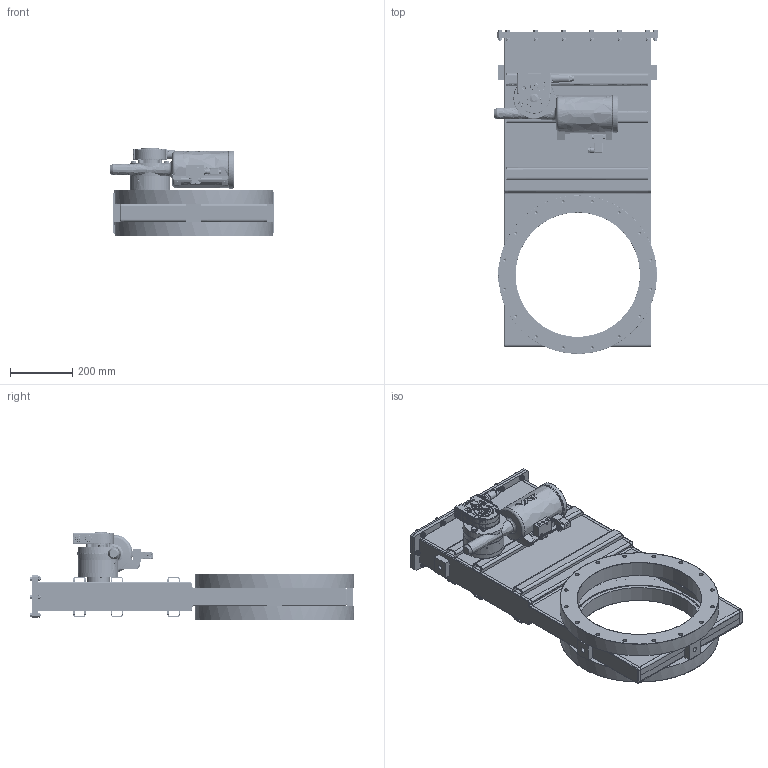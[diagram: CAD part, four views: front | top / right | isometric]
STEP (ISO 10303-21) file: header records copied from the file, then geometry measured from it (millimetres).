
FILE_DESCRIPTION((''),'2;1');
FILE_NAME('O:\MT\MT\Systeme\Cad\Datenexporte\www_vat_ch\206421.stp','2004-09-24T15:27:43',('User'),('SDRC'),'I-DEAS Master Series 9','UNIX','Yes');
FILE_SCHEMA(('CONFIG_CONTROL_DESIGN'));
Length unit declared in the file: millimetre
Assembly tree (113 placements, depth 0):
Bounding box: 530.75 x 1041.8 x 284.03 mm (x, y, z)
Volume: 14780306.3 mm3; surface area: 3565091.4 mm2
Topology: 154 solids, 154 shells, 3163 faces, 6996 edges, 4450 vertices
Faces by surface type: bspline 3163
Entity records: 68187 total; most frequent: CARTESIAN_POINT 34577, ORIENTED_EDGE 8544, EDGE_CURVE 4272, VERTEX_POINT 2742, EDGE_LOOP 2270, FACE_OUTER_BOUND 1855, ADVANCED_FACE 1855, QUASI_UNIFORM_CURVE 1277
